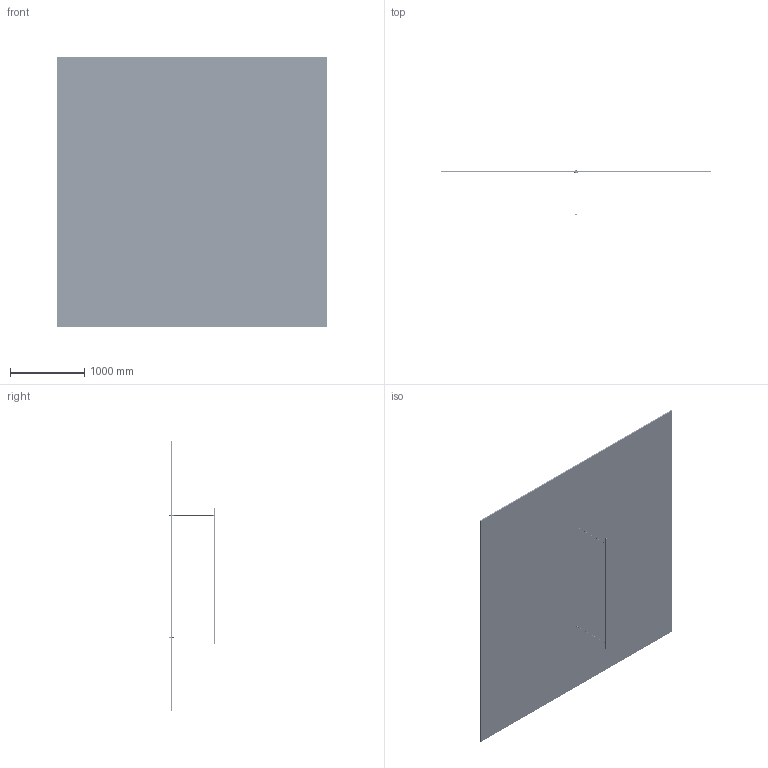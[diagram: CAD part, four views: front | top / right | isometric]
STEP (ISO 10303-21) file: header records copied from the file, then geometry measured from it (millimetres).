
FILE_DESCRIPTION (( 'STEP AP214' ), '1' );
FILE_NAME ('20LDL-S Step.STEP', '2023-02-14T18:20:33', ( '' ), ( '' ), 'SwSTEP 2.0', 'SolidWorks 2021', '' );
FILE_SCHEMA (( 'AUTOMOTIVE_DESIGN' ));
Length unit declared in the file: inch
Products named in the file (28): 780-10052-300; 780-10054-304-02_1; 610-20543-BCR401U LED DRIVER_BCR401U OR BCR402U; 780-10054-404-1-01; 720-10001-300; Drywall Slab; SP20L Cord Grip Grub Screw; 610-20543_Low Power 3.2 W-ft; 610-20543-LED BOARD-24.5_BOARD-24.5mm; M3x4mm FHSCS_M3x4mm FHSCS; 780-10052-300_Small hole 0.170"; 610-20543-LUXEON 3014_LUXEON 3014; 610-20573_Medium Power 6.4 W-ft; 610-20573-LED BOARD-449_BOARD-449mm; 730-20011-101-MOD-SUS; 780-10055-304; mjc2-46; 710-10200-300_SM20 HSG-6FT; mjc2-22_2; 410-10034_24in; 780-10054-304-01_1; 390-10016; 820-10328_Tile Ceiling with Small Barrel; WG-SM20L_S20 Round Drop Diffuser; 710-10012-400_71.941in; 780-10054-300; 730-20603-100; 20LDL-S Step
Assembly tree (191 placements, depth 5):
  20LDL-S Step
    WG-SM20L_S20 Round Drop Diffuser
      710-10200-300_SM20 HSG-6FT
      720-10001-300  x2
      610-20573_Medium Power 6.4 W-ft  x4
        610-20573-LED BOARD-449_BOARD-449mm
        610-20543-LUXEON 3014_LUXEON 3014
        610-20543-BCR401U LED DRIVER_BCR401U OR BCR402U
      610-20543_Low Power 3.2 W-ft
        610-20543-LED BOARD-24.5_BOARD-24.5mm
        610-20543-LUXEON 3014_LUXEON 3014  x7
        610-20543-BCR401U LED DRIVER_BCR401U OR BCR402U
      710-10012-400_71.941in
      M3x4mm FHSCS_M3x4mm FHSCS  x2
      730-20011-101-MOD-SUS  x2
      390-10016  x2
      410-10034_24in  x2
      820-10328_Tile Ceiling with Small Barrel  x2
        780-10054-300
          780-10055-304
          780-10054-404-1-01
          780-10054-304-02_1  x2
          mjc2-22_2  x2
          780-10054-304-01_1  x2
          mjc2-46  x2
        730-20603-100
        780-10052-300
          780-10052-300_Small hole 0.170"
          SP20L Cord Grip Grub Screw  x2
    Drywall Slab
Bounding box: 3657.6 x 625.47 x 3657.6 mm (x, y, z)
Volume: 212594335.2 mm3; surface area: 27407802.3 mm2
Topology: 638 solids, 638 shells, 39982 faces, 112806 edges, 75154 vertices
Faces by surface type: plane 24261, cylinder 15581, cone 102, bspline 38
Entity records: 31418 total; most frequent: CARTESIAN_POINT 6967, DIRECTION 4719, ORIENTED_EDGE 4350, EDGE_CURVE 2175, AXIS2_PLACEMENT_3D 1706, VERTEX_POINT 1431, LINE 1307, VECTOR 1307
